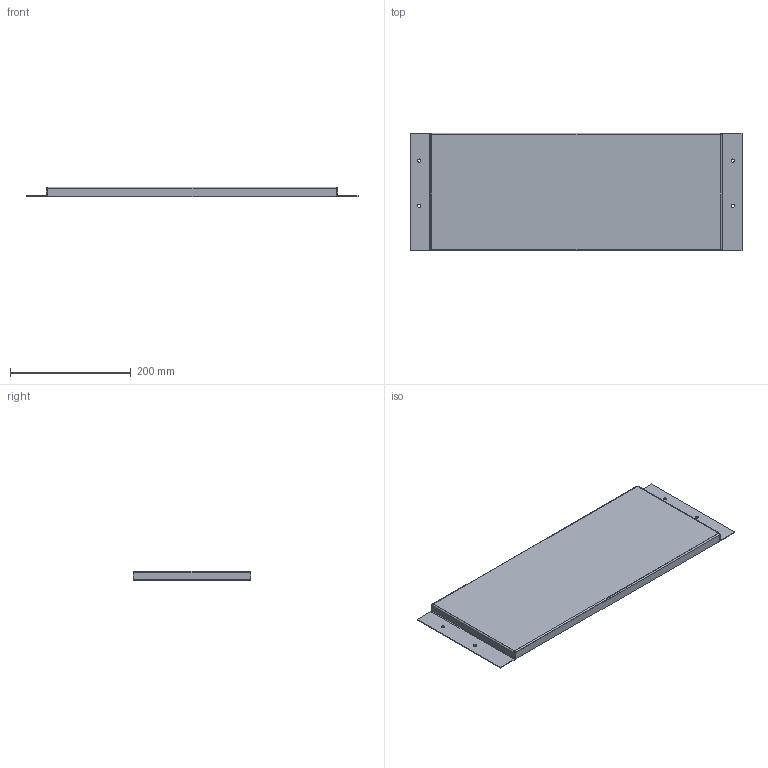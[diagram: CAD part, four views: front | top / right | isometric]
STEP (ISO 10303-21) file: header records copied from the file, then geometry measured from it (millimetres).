
FILE_DESCRIPTION (( 'STEP AP203' ), '1' );
FILE_NAME ('MB 20.55 Ïàíåëü ìîäóëüíàÿ.STEP', '2012-12-05T08:00:41', ( 'Àëåêñàíäð' ), ( 'Ïðîâåíòî' ), 'SwSTEP 2.0', 'SolidWorks 2012', '' );
FILE_SCHEMA (( 'CONFIG_CONTROL_DESIGN' ));
Length unit declared in the file: millimetre
Products named in the file (1): MB 20.55 Ïàíåëü ìîäóëüíàÿ
Bounding box: 550.6 x 195 x 15.6 mm (x, y, z)
Volume: 150349.8 mm3; surface area: 252605.5 mm2
Topology: 1 solids, 1 shells, 66 faces, 144 edges, 80 vertices
Faces by surface type: plane 46, cylinder 20
Entity records: 1837 total; most frequent: DIRECTION 318, CARTESIAN_POINT 291, ORIENTED_EDGE 288, EDGE_CURVE 144, AXIS2_PLACEMENT_3D 107, LINE 104, VECTOR 104, VERTEX_POINT 80
